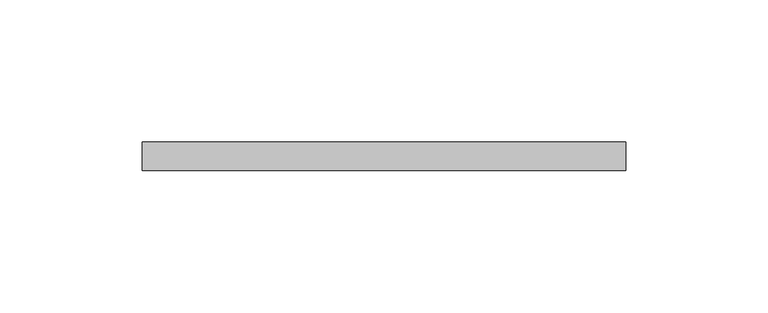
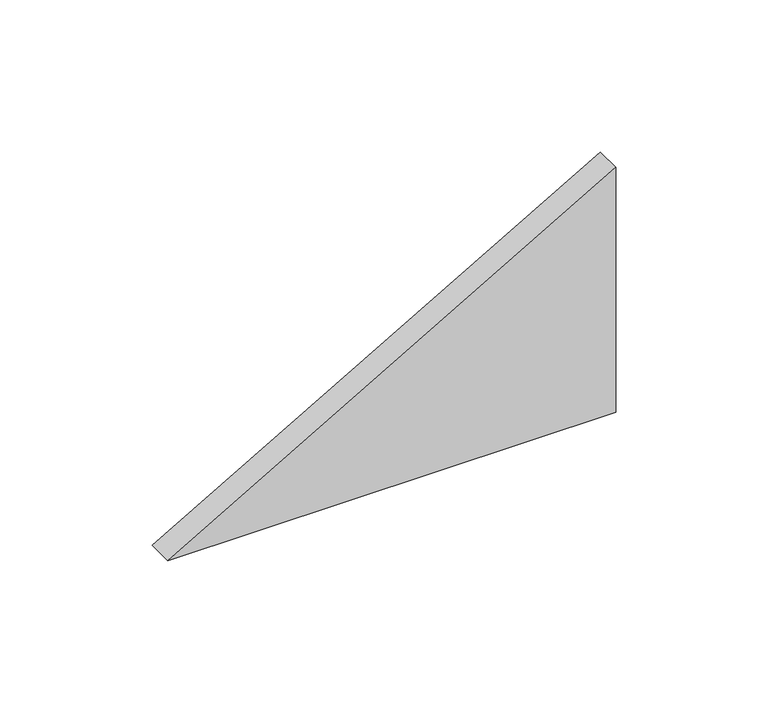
"""IFC4 building model written with IfcOpenShell, lengths in millimetres: plate geometry, 系統嵌板 : 玻璃 1.0cm."""

from ifc_helpers import new_model, si_unit, frame, origin, place, context, project, spatial, polyline, outline, extrude, source, transform, mapped, element, save


def plate_6007e982(model_context):
    return source(origin(), model_context, "Body", "SweptSolid", [
        extrude(outline(polyline([(0.0, -84.9364905), (0.0, 84.9364905), (98.0762114, 84.9364905), (0.0, -84.9364905)])), frame((0.0, -5.0, 0.0), z_axis=(0.0, 1.0, 0.0), x_axis=(0.0, 0.0, 1.0)), (0.0, 0.0, 1.0), 10.0),
    ])


if __name__ == "__main__":
    model = new_model("IFC4")
    model_context = context("Model", 3, world=origin())
    ifc_project = project(units=[si_unit("LENGTHUNIT", "METRE", prefix="MILLI")], contexts=[model_context])
    site = spatial("IfcSite", under=ifc_project)
    building = spatial("IfcBuilding", under=site)
    placement = place(None, origin())
    plate_shape = plate_6007e982(model_context)
    element("IfcPlate", 1, ObjectType="系統嵌板 : 玻璃 1.0cm", at=placement, inside=building, context=model_context, shape_type="MappedRepresentation", body=[
        mapped(plate_shape, transform((0.0, 0.0, 0.0), x_axis=(1.0, 0.0, 0.0), y_axis=(0.0, 1.0, 0.0), z_axis=(0.0, 0.0, 1.0))),
    ])
    save(model, "model.ifc")
